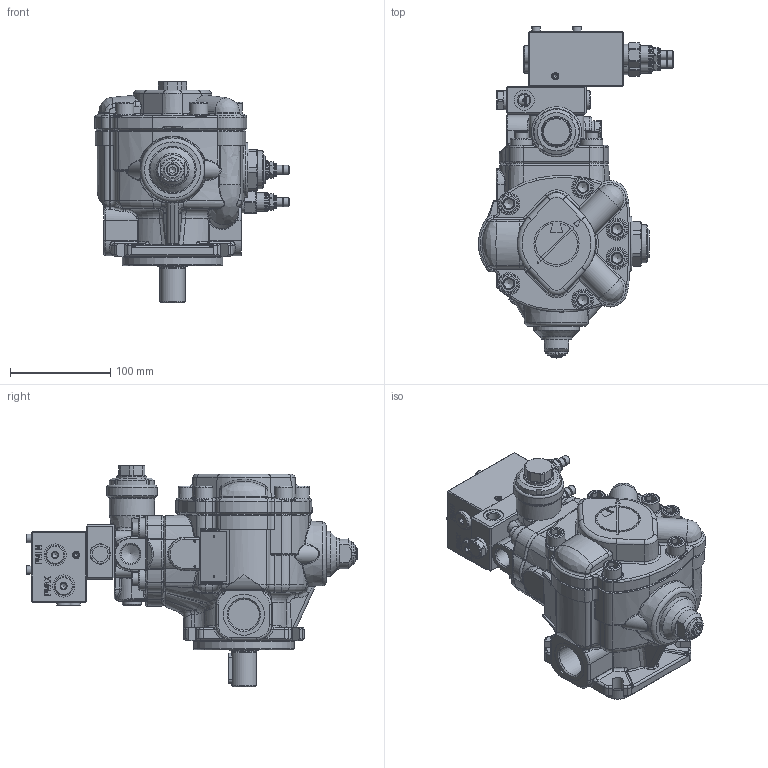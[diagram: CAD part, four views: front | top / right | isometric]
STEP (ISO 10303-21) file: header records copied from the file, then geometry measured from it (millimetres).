
FILE_DESCRIPTION(/* description */ (''),/* implementation_level */ '2;1');
FILE_NAME(/* name */ 'W:\Tecnico\Archivio\Berarma\Dimensioni Pompe\3D Export\Montaggio 3D semplificato\PLP-PHP 1\PHP 1 PCLS004.stp',/* time_stamp */ '2018-10-09T15:05:14+02:00',/* author */ ('marcop'),/* organization */ (''),/* preprocessor_version */ 'ST-DEVELOPER v17',/* originating_system */ 'Autodesk Inventor 2018',/* authorisation */ '');
FILE_SCHEMA (('AUTOMOTIVE_DESIGN { 1 0 10303 214 3 1 1 }'));
Products named in the file (1): PLP-PHP 1_Shrinkwrap_1
Bounding box: 194.5 x 330.7 x 221 mm (x, y, z)
Volume: 2838849 mm3; surface area: 332606.9 mm2
Topology: 2 solids, 2 shells, 2646 faces, 6924 edges, 4381 vertices
Faces by surface type: plane 1071, cylinder 673, bspline 372, cone 266, torus 241, sphere 23
Full cylindrical faces by diameter (mm): 0.9 x6, 1.7 x4, 2.5 x3, 3 x1, 4 x5, 4.134 x2, 5 x7, 5.5 x5, 6 x3, 6.5 x8, 7.2 x13, 7.671 x4, 8 x3, 8.5 x2, 8.566 x4, 9.347 x4, 9.5 x2, 10 x1, 11.445 x5, 12 x5, 13 x4, 13.487 x2, 13.5 x2, 13.767 x4, 14 x4, 14.224 x2, 14.63 x2, 15 x1, 15.5 x2, 16 x3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
Entity records: 98233 total; most frequent: CARTESIAN_POINT 32818, ORIENTED_EDGE 13738, DIRECTION 12500, EDGE_CURVE 6869, AXIS2_PLACEMENT_3D 4879, VERTEX_POINT 4381, EDGE_LOOP 2896, LINE 2742
